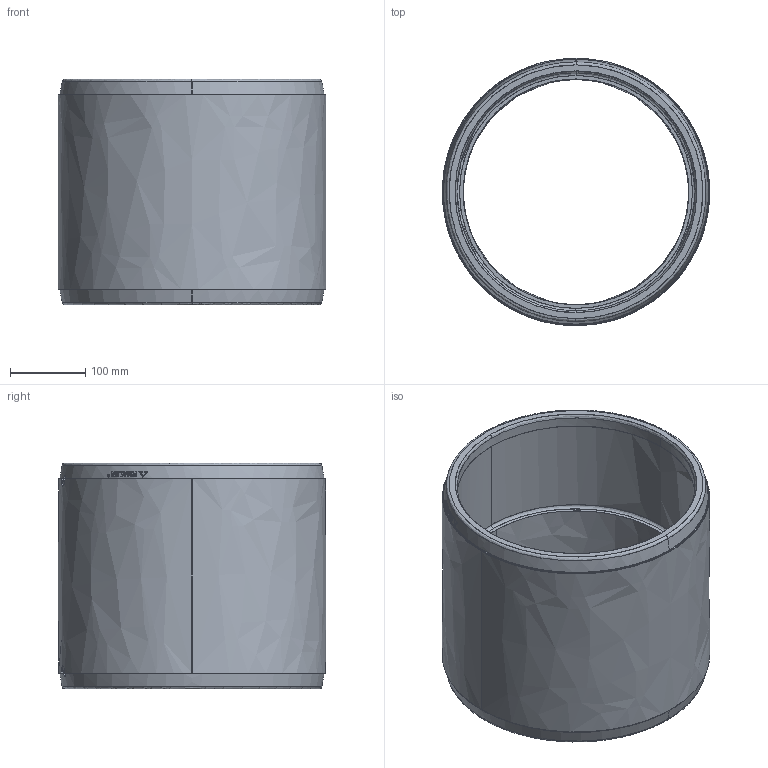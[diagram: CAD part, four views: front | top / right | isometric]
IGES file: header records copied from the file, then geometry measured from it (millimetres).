
Start section:  PTC IGES file: rem_d315_dn300_01.igs
Global section: file name: rem_d315_dn300_01.igs; native system: Pro/ENGINEER by Parametric Technology Corporation; preprocessor: 2011490; author: mtunjic; organization: Unknown; date: 20130806.112857; units: millimetre
Bounding box: 355 x 355 x 300 mm (x, y, z)
Surface area: 668751.3 mm2 (no closed solid volume)
Topology: 0 solids, 0 shells, 184 faces, 968 edges, 968 vertices
Faces by surface type: bspline 184
